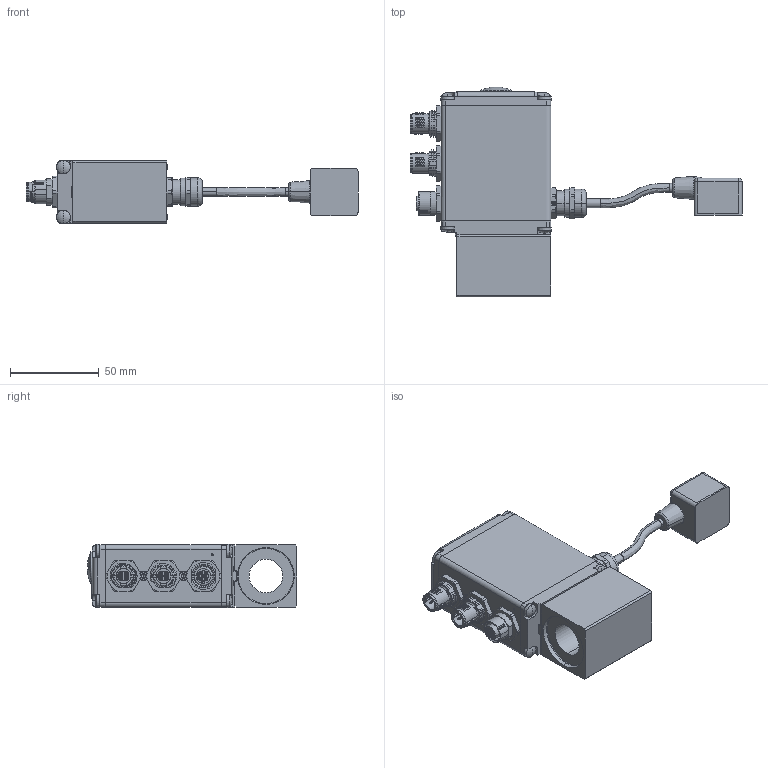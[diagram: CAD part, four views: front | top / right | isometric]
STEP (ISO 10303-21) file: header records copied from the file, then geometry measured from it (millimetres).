
FILE_DESCRIPTION (( 'STEP AP214' ), '1' );
FILE_NAME ('ME35_19x50-...C.R..STEP', '2014-04-03T08:43:20', ( '' ), ( '' ), 'SwSTEP 2.0', 'SolidWorks 2012', '' );
FILE_SCHEMA (( 'AUTOMOTIVE_DESIGN' ));
Length unit declared in the file: millimetre
Products named in the file (1): ME35_19x50-...C.R.
Bounding box: 187.3 x 118.39 x 35.9 mm (x, y, z)
Volume: 159005.1 mm3; surface area: 59344.3 mm2
Topology: 4 solids, 4 shells, 3016 faces, 8260 edges, 5337 vertices
Faces by surface type: plane 1589, cylinder 842, torus 233, cone 188, bspline 132, sphere 32
Entity records: 110462 total; most frequent: CARTESIAN_POINT 29718, ORIENTED_EDGE 16480, DIRECTION 14578, EDGE_CURVE 8240, VERTEX_POINT 5337, VECTOR 5076, LINE 5076, AXIS2_PLACEMENT_3D 4751
